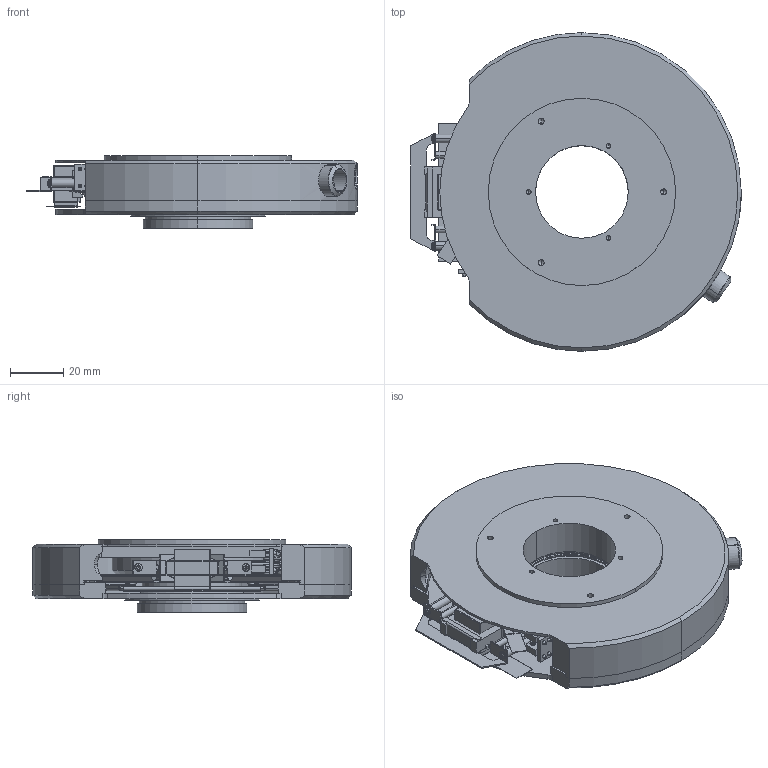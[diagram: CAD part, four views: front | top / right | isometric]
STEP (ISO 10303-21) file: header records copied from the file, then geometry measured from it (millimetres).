
FILE_DESCRIPTION (( 'STEP AP214' ), '1' );
FILE_NAME ('NO VSR35 3D Model Housed.STEP', '2013-12-30T17:00:56', ( 'helen' ), ( 'Microsoft' ), 'SwSTEP 2.0', 'SolidWorks 2010', '' );
FILE_SCHEMA (( 'AUTOMOTIVE_DESIGN' ));
Length unit declared in the file: inch
Products named in the file (1): NO VSR35 3D Model Housed
Bounding box: 124.61 x 120.14 x 27.3 mm (x, y, z)
Surface area: 94906.8 mm2 (no closed solid volume)
Topology: 0 solids, 33 shells, 2538 faces, 6570 edges, 4075 vertices
Faces by surface type: cone 832, plane 799, cylinder 797, torus 84, bspline 16, sphere 10
Entity records: 113439 total; most frequent: CARTESIAN_POINT 16248, DIRECTION 14462, ORIENTED_EDGE 12970, EDGE_CURVE 6536, AXIS2_PLACEMENT_3D 5619, VERTEX_POINT 4075, VECTOR 3224, LINE 3224
